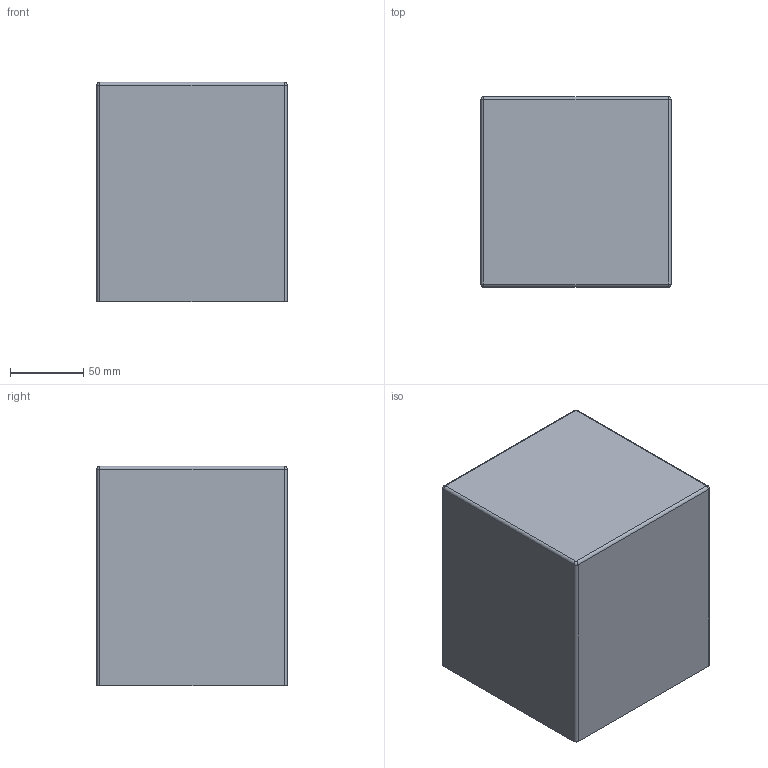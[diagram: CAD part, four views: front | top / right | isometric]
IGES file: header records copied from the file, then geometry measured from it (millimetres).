
Start section: SolidWorks IGES file using analytic representation for surfaces
Global section: file name: C:\Users\Agus\Desktop\AROMAS\Libreria modelos\A1092\A1092.IGS; native system: SolidWorks 2018; preprocessor: SolidWorks 2018; author: Agus; date: 190327.125918; units: millimetre
Bounding box: 130 x 130 x 150 mm (x, y, z)
Surface area: 227800.9 mm2 (no closed solid volume)
Topology: 0 solids, 0 shells, 34 faces, 176 edges, 172 vertices
Faces by surface type: bspline 22, revolution 12
